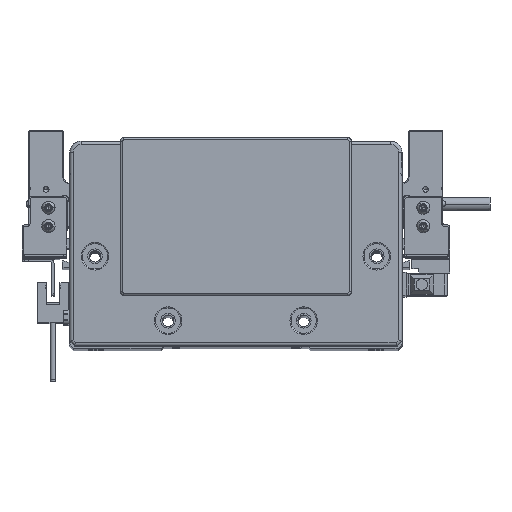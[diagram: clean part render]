
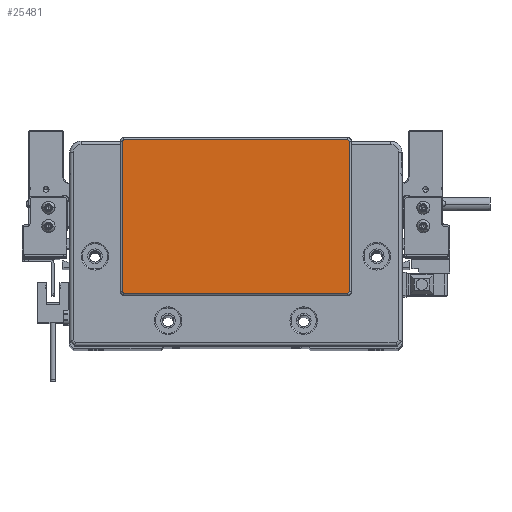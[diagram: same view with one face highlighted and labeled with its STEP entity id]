
A CAD part, top view. The second image highlights one B-rep face of the part: STEP entity #25481.
In plain terms, the highlighted planar face has unit normal (0, 0, 1) as drawn and (0, 0, -1) by its records, which use the part's own axes.
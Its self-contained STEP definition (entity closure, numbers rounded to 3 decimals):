
#1201 = CIRCLE ( 'NONE', #14596, 0.5 ) ;
#2481 = CARTESIAN_POINT ( 'NONE',  ( 48.75, 43.8, -2. ) ) ;
#8174 = CARTESIAN_POINT ( 'NONE',  ( -48.75, -22.3, -2. ) ) ;
#8325 = CIRCLE ( 'NONE', #70969, 0.5 ) ;
#9283 = DIRECTION ( 'NONE',  ( -1., 0., 0. ) ) ;
#9370 = EDGE_CURVE ( 'NONE', #67720, #11645, #48122, .T. ) ;
#10957 = DIRECTION ( 'NONE',  ( 0., 0., -1. ) ) ;
#11645 = VERTEX_POINT ( 'NONE', #8174 ) ;
#11985 = ORIENTED_EDGE ( 'NONE', *, *, #26569, .T. ) ;
#12086 = ORIENTED_EDGE ( 'NONE', *, *, #29259, .T. ) ;
#13436 = CARTESIAN_POINT ( 'NONE',  ( -48.75, -21.8, -2. ) ) ;
#13626 = EDGE_CURVE ( 'NONE', #11645, #43646, #75368, .T. ) ;
#14413 = CARTESIAN_POINT ( 'NONE',  ( -49.25, 43.8, -2. ) ) ;
#14596 = AXIS2_PLACEMENT_3D ( 'NONE', #2481, #28012, #53411 ) ;
#15466 = AXIS2_PLACEMENT_3D ( 'NONE', #44678, #34259, #64711 ) ;
#15555 = CARTESIAN_POINT ( 'NONE',  ( 0., 0., -2. ) ) ;
#16146 = EDGE_LOOP ( 'NONE', ( #11985, #30762, #49446, #65611, #12086, #45298, #59879, #81555 ) ) ;
#16999 = VERTEX_POINT ( 'NONE', #78197 ) ;
#18414 = LINE ( 'NONE', #43855, #21949 ) ;
#18601 = EDGE_CURVE ( 'NONE', #32566, #16999, #8325, .T. ) ;
#19487 = CARTESIAN_POINT ( 'NONE',  ( 49.25, -21.8, -2. ) ) ;
#21375 = DIRECTION ( 'NONE',  ( 0., 0., -1. ) ) ;
#21949 = VECTOR ( 'NONE', #31771, 1000. ) ;
#22153 = CARTESIAN_POINT ( 'NONE',  ( -49.25, 43.8, -2. ) ) ;
#23068 = FACE_OUTER_BOUND ( 'NONE', #16146, .T. ) ;
#24944 = VERTEX_POINT ( 'NONE', #63267 ) ;
#25481 = ADVANCED_FACE ( 'NONE', ( #23068 ), #72746, .T. ) ;
#26569 = EDGE_CURVE ( 'NONE', #63202, #24944, #33654, .T. ) ;
#26936 = CARTESIAN_POINT ( 'NONE',  ( 48.75, -22.3, -2. ) ) ;
#27955 = EDGE_CURVE ( 'NONE', #24944, #67720, #51445, .T. ) ;
#28012 = DIRECTION ( 'NONE',  ( 0., 0., -1. ) ) ;
#28013 = LINE ( 'NONE', #22153, #52116 ) ;
#29259 = EDGE_CURVE ( 'NONE', #43646, #32566, #28013, .T. ) ;
#30762 = ORIENTED_EDGE ( 'NONE', *, *, #27955, .T. ) ;
#31771 = DIRECTION ( 'NONE',  ( 1., 0., 0. ) ) ;
#32006 = DIRECTION ( 'NONE',  ( 0., -1., 0. ) ) ;
#32566 = VERTEX_POINT ( 'NONE', #14413 ) ;
#33085 = DIRECTION ( 'NONE',  ( -1., 0., 0. ) ) ;
#33654 = LINE ( 'NONE', #19487, #59813 ) ;
#34259 = DIRECTION ( 'NONE',  ( 0., 0., -1. ) ) ;
#34404 = AXIS2_PLACEMENT_3D ( 'NONE', #15555, #48921, #9283 ) ;
#35049 = VERTEX_POINT ( 'NONE', #56337 ) ;
#37970 = VECTOR ( 'NONE', #43833, 1000. ) ;
#38085 = AXIS2_PLACEMENT_3D ( 'NONE', #13436, #21375, #33085 ) ;
#42689 = CARTESIAN_POINT ( 'NONE',  ( -48.75, 43.8, -2. ) ) ;
#43646 = VERTEX_POINT ( 'NONE', #70015 ) ;
#43833 = DIRECTION ( 'NONE',  ( -1., 0., 0. ) ) ;
#43855 = CARTESIAN_POINT ( 'NONE',  ( 48.75, 44.3, -2. ) ) ;
#44678 = CARTESIAN_POINT ( 'NONE',  ( 48.75, -21.8, -2. ) ) ;
#45298 = ORIENTED_EDGE ( 'NONE', *, *, #18601, .T. ) ;
#48122 = LINE ( 'NONE', #73594, #37970 ) ;
#48921 = DIRECTION ( 'NONE',  ( 0., 0., -1. ) ) ;
#49446 = ORIENTED_EDGE ( 'NONE', *, *, #9370, .T. ) ;
#51445 = CIRCLE ( 'NONE', #15466, 0.5 ) ;
#52116 = VECTOR ( 'NONE', #78077, 1000. ) ;
#53411 = DIRECTION ( 'NONE',  ( -1., 0., 0. ) ) ;
#56337 = CARTESIAN_POINT ( 'NONE',  ( 48.75, 44.3, -2. ) ) ;
#57473 = EDGE_CURVE ( 'NONE', #16999, #35049, #18414, .T. ) ;
#59813 = VECTOR ( 'NONE', #32006, 1000. ) ;
#59879 = ORIENTED_EDGE ( 'NONE', *, *, #57473, .T. ) ;
#63202 = VERTEX_POINT ( 'NONE', #68740 ) ;
#63267 = CARTESIAN_POINT ( 'NONE',  ( 49.25, -21.8, -2. ) ) ;
#64711 = DIRECTION ( 'NONE',  ( -1., 0., 0. ) ) ;
#65611 = ORIENTED_EDGE ( 'NONE', *, *, #13626, .T. ) ;
#67720 = VERTEX_POINT ( 'NONE', #26936 ) ;
#68740 = CARTESIAN_POINT ( 'NONE',  ( 49.25, 43.8, -2. ) ) ;
#69741 = EDGE_CURVE ( 'NONE', #35049, #63202, #1201, .T. ) ;
#70015 = CARTESIAN_POINT ( 'NONE',  ( -49.25, -21.8, -2. ) ) ;
#70969 = AXIS2_PLACEMENT_3D ( 'NONE', #42689, #10957, #74802 ) ;
#72746 = PLANE ( 'NONE',  #34404 ) ;
#73594 = CARTESIAN_POINT ( 'NONE',  ( -48.75, -22.3, -2. ) ) ;
#74802 = DIRECTION ( 'NONE',  ( -1., 0., 0. ) ) ;
#75368 = CIRCLE ( 'NONE', #38085, 0.5 ) ;
#78077 = DIRECTION ( 'NONE',  ( 0., 1., 0. ) ) ;
#78197 = CARTESIAN_POINT ( 'NONE',  ( -48.75, 44.3, -2. ) ) ;
#81555 = ORIENTED_EDGE ( 'NONE', *, *, #69741, .T. ) ;
